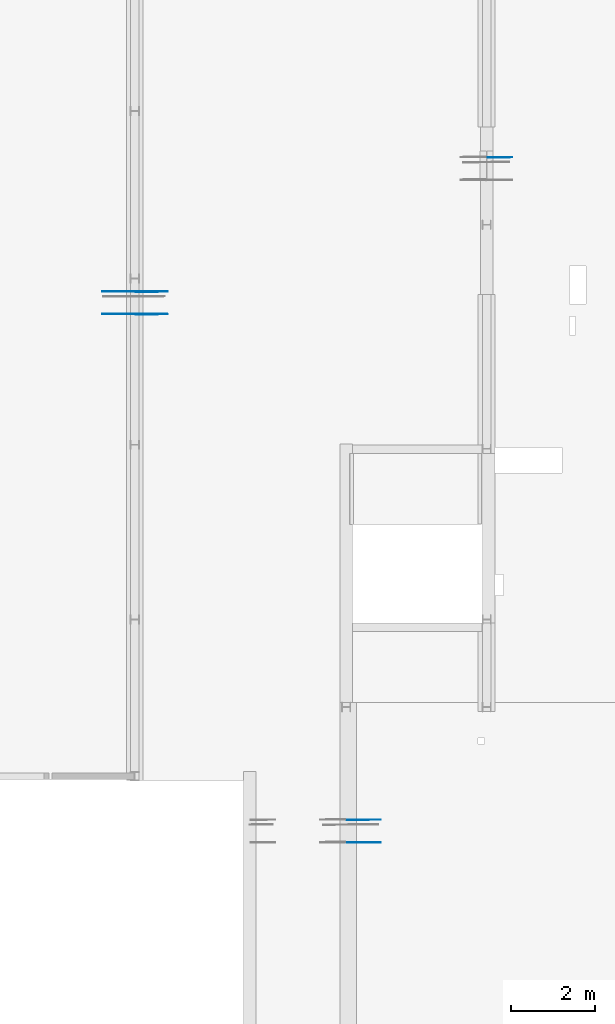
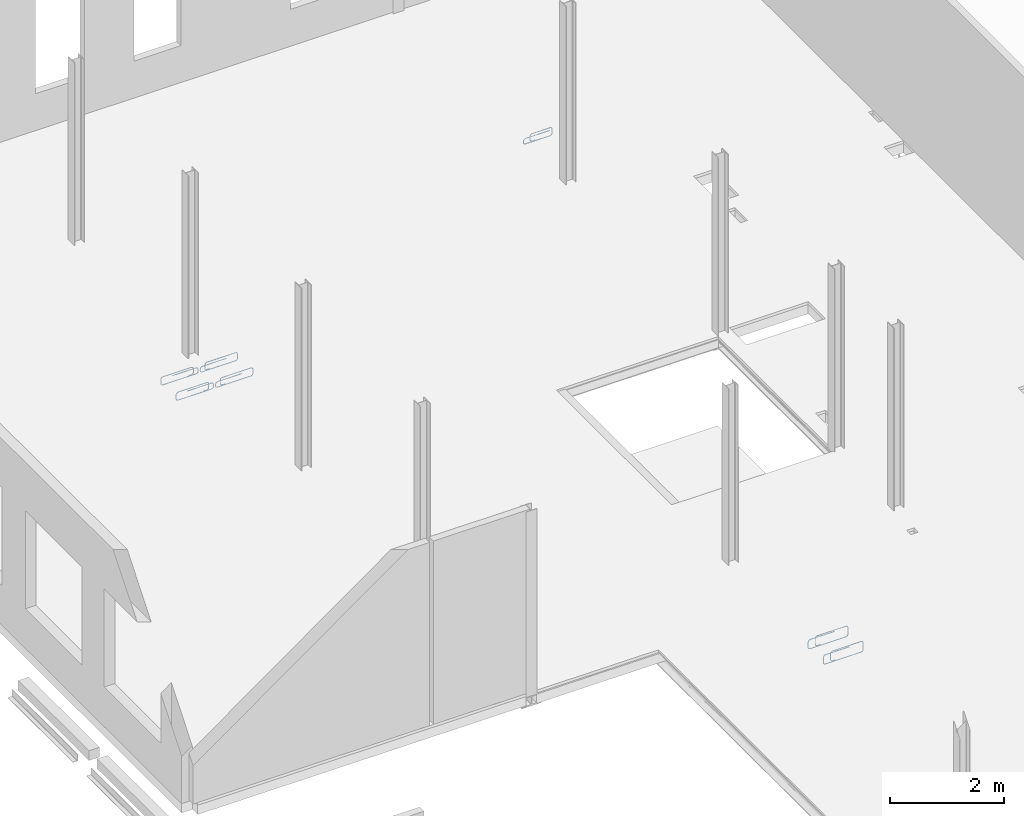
# One storey, part 15 of 16: 7 reinforcing bars.
"""IFC2X3 building model written with IfcOpenShell, lengths in millimetres."""

from ifc_helpers import new_model, entity, si_unit, converted_unit, derived_unit, direction, frame, origin, place, context, subcontext, project, spatial, element, save


model = new_model("IFC2X3")

# Units and contexts
model_context = context("Model", 3, precision=0.01, world=origin(), true_north=direction((6.12303176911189e-17, 1.0)))
body_context = subcontext(model_context, "Body", "Model", "MODEL_VIEW")
ifc_project = project(units=[si_unit("LENGTHUNIT", "METRE", prefix="MILLI"), si_unit("AREAUNIT", "SQUARE_METRE"), si_unit("VOLUMEUNIT", "CUBIC_METRE"), converted_unit("PLANEANGLEUNIT", "DEGREE", entity("IfcRatioMeasure", 0.0174532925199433), si_unit("PLANEANGLEUNIT", "RADIAN"), dimensions=[0, 0, 0, 0, 0, 0, 0]), si_unit("MASSUNIT", "GRAM", prefix="KILO"), derived_unit("MASSDENSITYUNIT", [(si_unit("MASSUNIT", "GRAM", prefix="KILO"), 1), (si_unit("LENGTHUNIT", "METRE"), -3)]), derived_unit("MOMENTOFINERTIAUNIT", [(si_unit("LENGTHUNIT", "METRE"), 4)]), si_unit("TIMEUNIT", "SECOND"), si_unit("FREQUENCYUNIT", "HERTZ"), si_unit("THERMODYNAMICTEMPERATUREUNIT", "DEGREE_CELSIUS"), derived_unit("THERMALTRANSMITTANCEUNIT", [(si_unit("MASSUNIT", "GRAM", prefix="KILO"), 1), (si_unit("THERMODYNAMICTEMPERATUREUNIT", "KELVIN"), -1), (si_unit("TIMEUNIT", "SECOND"), -3)]), derived_unit("VOLUMETRICFLOWRATEUNIT", [(si_unit("LENGTHUNIT", "METRE"), 3), (si_unit("TIMEUNIT", "SECOND"), -1)]), si_unit("ELECTRICCURRENTUNIT", "AMPERE"), si_unit("ELECTRICVOLTAGEUNIT", "VOLT"), si_unit("POWERUNIT", "WATT"), si_unit("FORCEUNIT", "NEWTON", prefix="KILO"), si_unit("ILLUMINANCEUNIT", "LUX"), si_unit("LUMINOUSFLUXUNIT", "LUMEN"), si_unit("LUMINOUSINTENSITYUNIT", "CANDELA"), derived_unit("USERDEFINED", [(si_unit("MASSUNIT", "GRAM", prefix="KILO"), -1), (si_unit("LENGTHUNIT", "METRE"), -2), (si_unit("TIMEUNIT", "SECOND"), 3), (si_unit("LUMINOUSFLUXUNIT", "LUMEN"), 1)]), derived_unit("LINEARVELOCITYUNIT", [(si_unit("LENGTHUNIT", "METRE"), 1), (si_unit("TIMEUNIT", "SECOND"), -1)]), si_unit("PRESSUREUNIT", "PASCAL"), derived_unit("USERDEFINED", [(si_unit("LENGTHUNIT", "METRE"), -2), (si_unit("MASSUNIT", "GRAM", prefix="KILO"), 1), (si_unit("TIMEUNIT", "SECOND"), -2)]), derived_unit("LINEARFORCEUNIT", [(si_unit("MASSUNIT", "GRAM", prefix="KILO"), 1), (si_unit("LENGTHUNIT", "METRE"), 1), (si_unit("TIMEUNIT", "SECOND"), -2), (si_unit("LENGTHUNIT", "METRE"), -1)]), derived_unit("PLANARFORCEUNIT", [(si_unit("MASSUNIT", "GRAM", prefix="KILO"), 1), (si_unit("LENGTHUNIT", "METRE"), 1), (si_unit("TIMEUNIT", "SECOND"), -2), (si_unit("LENGTHUNIT", "METRE"), -2)])], contexts=[model_context])

# Site, building, storey
site_placement = place(None, origin())
site = spatial("IfcSite", under=ifc_project, at=site_placement, Name="Default", CompositionType="ELEMENT")
building_placement = place(site_placement, origin())
building = spatial("IfcBuilding", under=site, at=building_placement, CompositionType="ELEMENT")
storey_placement = place(building_placement, frame((0.0, 0.0, 3500.0)))
storey = spatial("IfcBuildingStorey", under=building, at=storey_placement, Name="01 eerste verdieping", CompositionType="ELEMENT", Elevation=3500.00000000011)

# Reinforcing bars
reinforcing_bar_1_placement = place(storey_placement, origin())
ifc_direction_1 = entity("IfcDirection", [0.0, 1.0, 0.0])
ifc_direction_2 = entity("IfcDirection", [-1.0, 0.0, 0.0])
element("IfcReinforcingBar", 1, at=reinforcing_bar_1_placement, inside=storey, Name="Rebar Bar:SR_ø8 : Shape Rebar Shape 5: 1", ObjectType="Rebar Bar:SR_ø8", BarLength=2375.59682652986, BarRole="NOTDEFINED", CrossSectionArea=5.02654824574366e-05, NominalDiameter=8.0, context=body_context, shape_type="AdvancedSweptSolid", body=[
    entity("IfcSweptDiskSolid", entity("IfcCompositeCurve", [entity("IfcCompositeCurveSegment", "CONTINUOUS", True, entity("IfcPolyline", [entity("IfcCartesianPoint", [20782.5848635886, 27754.977353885, 209.138583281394]), entity("IfcCartesianPoint", [20730.5848635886, 27754.977353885, 209.138583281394])])), entity("IfcCompositeCurveSegment", "CONTINUOUS", True, entity("IfcTrimmedCurve", entity("IfcCircle", entity("IfcAxis2Placement3D", entity("IfcCartesianPoint", [20730.5848635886, 27754.977353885, 253.138583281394]), ifc_direction_1, ifc_direction_2), 44.0), [entity("IfcParameterValue", 270.0)], [entity("IfcParameterValue", 360.0)], True, "PARAMETER")), entity("IfcCompositeCurveSegment", "CONTINUOUS", True, entity("IfcPolyline", [entity("IfcCartesianPoint", [20686.5848635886, 27754.977353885, 253.138583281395]), entity("IfcCartesianPoint", [20686.5848635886, 27754.977353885, 322.533605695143])])), entity("IfcCompositeCurveSegment", "CONTINUOUS", True, entity("IfcTrimmedCurve", entity("IfcCircle", entity("IfcAxis2Placement3D", entity("IfcCartesianPoint", [20730.5848635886, 27754.977353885, 322.533605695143]), ifc_direction_1, entity("IfcDirection", [0.0, 0.0, 1.0])), 44.0), [entity("IfcParameterValue", 270.0)], [entity("IfcParameterValue", 360.0)], True, "PARAMETER")), entity("IfcCompositeCurveSegment", "CONTINUOUS", True, entity("IfcPolyline", [entity("IfcCartesianPoint", [20730.5848635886, 27754.977353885, 366.533605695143]), entity("IfcCartesianPoint", [21303.2357722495, 27754.977353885, 366.533605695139])])), entity("IfcCompositeCurveSegment", "CONTINUOUS", True, entity("IfcTrimmedCurve", entity("IfcCircle", entity("IfcAxis2Placement3D", entity("IfcCartesianPoint", [21303.2357722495, 27754.977353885, 322.533605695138]), ifc_direction_1, entity("IfcDirection", [1.0, 0.0, 0.0])), 44.0), [entity("IfcParameterValue", 270.0)], [entity("IfcParameterValue", 360.0)], True, "PARAMETER")), entity("IfcCompositeCurveSegment", "CONTINUOUS", True, entity("IfcPolyline", [entity("IfcCartesianPoint", [21347.2357722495, 27754.977353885, 322.533605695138]), entity("IfcCartesianPoint", [21347.2357722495, 27754.977353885, 238.0])])), entity("IfcCompositeCurveSegment", "CONTINUOUS", True, entity("IfcTrimmedCurve", entity("IfcCircle", entity("IfcAxis2Placement3D", entity("IfcCartesianPoint", [21303.2357722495, 27754.977353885, 238.0]), ifc_direction_1, entity("IfcDirection", [0.0, 0.0, -1.0])), 44.0), [entity("IfcParameterValue", 270.0)], [entity("IfcParameterValue", 360.0)], True, "PARAMETER")), entity("IfcCompositeCurveSegment", "CONTINUOUS", True, entity("IfcPolyline", [entity("IfcCartesianPoint", [21303.2357722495, 27754.977353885, 194.0]), entity("IfcCartesianPoint", [20633.5512070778, 27754.977353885, 194.0])])), entity("IfcCompositeCurveSegment", "CONTINUOUS", True, entity("IfcTrimmedCurve", entity("IfcCircle", entity("IfcAxis2Placement3D", entity("IfcCartesianPoint", [20633.5512070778, 27752.0982912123, 237.905705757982]), entity("IfcDirection", [0.0, 0.997856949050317, 0.065433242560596]), ifc_direction_2), 44.0), [entity("IfcParameterValue", 270.0)], [entity("IfcParameterValue", 360.0)], True, "PARAMETER")), entity("IfcCompositeCurveSegment", "CONTINUOUS", True, entity("IfcPolyline", [entity("IfcCartesianPoint", [20589.5512070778, 27752.0982912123, 237.905705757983]), entity("IfcCartesianPoint", [20589.5512070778, 27749.8564165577, 272.09429424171])])), entity("IfcCompositeCurveSegment", "CONTINUOUS", True, entity("IfcTrimmedCurve", entity("IfcCircle", entity("IfcAxis2Placement3D", entity("IfcCartesianPoint", [20633.5512070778, 27749.8564165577, 272.09429424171]), entity("IfcDirection", [0.0, 0.997856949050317, 0.065433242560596]), entity("IfcDirection", [0.0, -0.065433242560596, 0.997856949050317])), 44.0), [entity("IfcParameterValue", 270.0)], [entity("IfcParameterValue", 360.0)], True, "PARAMETER")), entity("IfcCompositeCurveSegment", "CONTINUOUS", True, entity("IfcPolyline", [entity("IfcCartesianPoint", [20633.5512070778, 27746.977353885, 316.0]), entity("IfcCartesianPoint", [21112.193701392, 27746.977353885, 316.0])]))], False), 4.0, None, 0.0, 547.0),
])
reinforcing_bar_2_placement = place(storey_placement, origin())
ifc_direction_3 = entity("IfcDirection", [0.0, 1.0, 0.0])
ifc_direction_4 = entity("IfcDirection", [-1.0, 0.0, 0.0])
element("IfcReinforcingBar", 2, at=reinforcing_bar_2_placement, inside=storey, Name="Rebar Bar:SR_ø8 : Shape Rebar Shape 5: 2", ObjectType="Rebar Bar:SR_ø8", BarLength=2375.59682652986, BarRole="NOTDEFINED", CrossSectionArea=5.02654824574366e-05, NominalDiameter=8.0, context=body_context, shape_type="AdvancedSweptSolid", body=[
    entity("IfcSweptDiskSolid", entity("IfcCompositeCurve", [entity("IfcCompositeCurveSegment", "CONTINUOUS", True, entity("IfcPolyline", [entity("IfcCartesianPoint", [20782.5848635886, 27216.2387660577, 209.138583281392]), entity("IfcCartesianPoint", [20730.5848635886, 27216.2387660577, 209.138583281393])])), entity("IfcCompositeCurveSegment", "CONTINUOUS", True, entity("IfcTrimmedCurve", entity("IfcCircle", entity("IfcAxis2Placement3D", entity("IfcCartesianPoint", [20730.5848635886, 27216.2387660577, 253.138583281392]), ifc_direction_3, ifc_direction_4), 44.0), [entity("IfcParameterValue", 270.0)], [entity("IfcParameterValue", 360.0)], True, "PARAMETER")), entity("IfcCompositeCurveSegment", "CONTINUOUS", True, entity("IfcPolyline", [entity("IfcCartesianPoint", [20686.5848635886, 27216.2387660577, 253.138583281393]), entity("IfcCartesianPoint", [20686.5848635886, 27216.2387660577, 322.533605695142])])), entity("IfcCompositeCurveSegment", "CONTINUOUS", True, entity("IfcTrimmedCurve", entity("IfcCircle", entity("IfcAxis2Placement3D", entity("IfcCartesianPoint", [20730.5848635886, 27216.2387660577, 322.533605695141]), ifc_direction_3, entity("IfcDirection", [0.0, 0.0, 1.0])), 44.0), [entity("IfcParameterValue", 270.0)], [entity("IfcParameterValue", 360.0)], True, "PARAMETER")), entity("IfcCompositeCurveSegment", "CONTINUOUS", True, entity("IfcPolyline", [entity("IfcCartesianPoint", [20730.5848635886, 27216.2387660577, 366.533605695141]), entity("IfcCartesianPoint", [21303.2357722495, 27216.2387660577, 366.533605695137])])), entity("IfcCompositeCurveSegment", "CONTINUOUS", True, entity("IfcTrimmedCurve", entity("IfcCircle", entity("IfcAxis2Placement3D", entity("IfcCartesianPoint", [21303.2357722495, 27216.2387660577, 322.533605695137]), ifc_direction_3, entity("IfcDirection", [1.0, 0.0, 0.0])), 44.0), [entity("IfcParameterValue", 270.0)], [entity("IfcParameterValue", 360.0)], True, "PARAMETER")), entity("IfcCompositeCurveSegment", "CONTINUOUS", True, entity("IfcPolyline", [entity("IfcCartesianPoint", [21347.2357722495, 27216.2387660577, 322.533605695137]), entity("IfcCartesianPoint", [21347.2357722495, 27216.2387660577, 238.0])])), entity("IfcCompositeCurveSegment", "CONTINUOUS", True, entity("IfcTrimmedCurve", entity("IfcCircle", entity("IfcAxis2Placement3D", entity("IfcCartesianPoint", [21303.2357722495, 27216.2387660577, 238.0]), ifc_direction_3, entity("IfcDirection", [0.0, 0.0, -1.0])), 44.0), [entity("IfcParameterValue", 270.0)], [entity("IfcParameterValue", 360.0)], True, "PARAMETER")), entity("IfcCompositeCurveSegment", "CONTINUOUS", True, entity("IfcPolyline", [entity("IfcCartesianPoint", [21303.2357722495, 27216.2387660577, 194.0]), entity("IfcCartesianPoint", [20633.5512070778, 27216.2387660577, 194.0])])), entity("IfcCompositeCurveSegment", "CONTINUOUS", True, entity("IfcTrimmedCurve", entity("IfcCircle", entity("IfcAxis2Placement3D", entity("IfcCartesianPoint", [20633.5512070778, 27213.359703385, 237.905705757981]), entity("IfcDirection", [0.0, 0.997856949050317, 0.065433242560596]), ifc_direction_4), 44.0), [entity("IfcParameterValue", 270.0)], [entity("IfcParameterValue", 360.0)], True, "PARAMETER")), entity("IfcCompositeCurveSegment", "CONTINUOUS", True, entity("IfcPolyline", [entity("IfcCartesianPoint", [20589.5512070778, 27213.359703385, 237.905705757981]), entity("IfcCartesianPoint", [20589.5512070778, 27211.1178287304, 272.094294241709])])), entity("IfcCompositeCurveSegment", "CONTINUOUS", True, entity("IfcTrimmedCurve", entity("IfcCircle", entity("IfcAxis2Placement3D", entity("IfcCartesianPoint", [20633.5512070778, 27211.1178287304, 272.094294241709]), entity("IfcDirection", [0.0, 0.997856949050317, 0.065433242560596]), entity("IfcDirection", [0.0, -0.065433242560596, 0.997856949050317])), 44.0), [entity("IfcParameterValue", 270.0)], [entity("IfcParameterValue", 360.0)], True, "PARAMETER")), entity("IfcCompositeCurveSegment", "CONTINUOUS", True, entity("IfcPolyline", [entity("IfcCartesianPoint", [20633.5512070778, 27208.2387660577, 316.0]), entity("IfcCartesianPoint", [21112.193701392, 27208.2387660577, 316.0])]))], False), 4.0, None, 0.0, 547.0),
])
reinforcing_bar_3_placement = place(storey_placement, origin())
ifc_direction_5 = entity("IfcDirection", [0.0, -1.0, 0.0])
ifc_direction_6 = entity("IfcDirection", [1.0, 0.0, 0.0])
element("IfcReinforcingBar", 3, at=reinforcing_bar_3_placement, inside=storey, Name="Rebar Bar:SR_ø8 : Shape Rebar Shape 5: 1", ObjectType="Rebar Bar:SR_ø8", BarLength=2375.59682652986, BarRole="NOTDEFINED", CrossSectionArea=5.02654824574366e-05, NominalDiameter=8.0, context=body_context, shape_type="AdvancedSweptSolid", body=[
    entity("IfcSweptDiskSolid", entity("IfcCompositeCurve", [entity("IfcCompositeCurveSegment", "CONTINUOUS", True, entity("IfcPolyline", [entity("IfcCartesianPoint", [20356.2850894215, 27754.977353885, 209.138583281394]), entity("IfcCartesianPoint", [20408.2850894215, 27754.977353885, 209.138583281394])])), entity("IfcCompositeCurveSegment", "CONTINUOUS", True, entity("IfcTrimmedCurve", entity("IfcCircle", entity("IfcAxis2Placement3D", entity("IfcCartesianPoint", [20408.2850894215, 27754.977353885, 253.138583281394]), ifc_direction_5, ifc_direction_6), 44.0), [entity("IfcParameterValue", 270.0)], [entity("IfcParameterValue", 360.0)], True, "PARAMETER")), entity("IfcCompositeCurveSegment", "CONTINUOUS", True, entity("IfcPolyline", [entity("IfcCartesianPoint", [20452.2850894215, 27754.977353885, 253.138583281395]), entity("IfcCartesianPoint", [20452.2850894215, 27754.977353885, 322.533605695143])])), entity("IfcCompositeCurveSegment", "CONTINUOUS", True, entity("IfcTrimmedCurve", entity("IfcCircle", entity("IfcAxis2Placement3D", entity("IfcCartesianPoint", [20408.2850894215, 27754.977353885, 322.533605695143]), ifc_direction_5, entity("IfcDirection", [0.0, 0.0, 1.0])), 44.0), [entity("IfcParameterValue", 270.0)], [entity("IfcParameterValue", 360.0)], True, "PARAMETER")), entity("IfcCompositeCurveSegment", "CONTINUOUS", True, entity("IfcPolyline", [entity("IfcCartesianPoint", [20408.2850894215, 27754.977353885, 366.533605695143]), entity("IfcCartesianPoint", [19835.6341807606, 27754.977353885, 366.533605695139])])), entity("IfcCompositeCurveSegment", "CONTINUOUS", True, entity("IfcTrimmedCurve", entity("IfcCircle", entity("IfcAxis2Placement3D", entity("IfcCartesianPoint", [19835.6341807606, 27754.977353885, 322.533605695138]), ifc_direction_5, entity("IfcDirection", [-1.0, 0.0, 0.0])), 44.0), [entity("IfcParameterValue", 270.0)], [entity("IfcParameterValue", 360.0)], True, "PARAMETER")), entity("IfcCompositeCurveSegment", "CONTINUOUS", True, entity("IfcPolyline", [entity("IfcCartesianPoint", [19791.6341807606, 27754.977353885, 322.533605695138]), entity("IfcCartesianPoint", [19791.6341807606, 27754.977353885, 238.0])])), entity("IfcCompositeCurveSegment", "CONTINUOUS", True, entity("IfcTrimmedCurve", entity("IfcCircle", entity("IfcAxis2Placement3D", entity("IfcCartesianPoint", [19835.6341807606, 27754.977353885, 238.0]), ifc_direction_5, entity("IfcDirection", [0.0, 0.0, -1.0])), 44.0), [entity("IfcParameterValue", 270.0)], [entity("IfcParameterValue", 360.0)], True, "PARAMETER")), entity("IfcCompositeCurveSegment", "CONTINUOUS", True, entity("IfcPolyline", [entity("IfcCartesianPoint", [19835.6341807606, 27754.977353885, 194.0]), entity("IfcCartesianPoint", [20505.3187459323, 27754.977353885, 194.0])])), entity("IfcCompositeCurveSegment", "CONTINUOUS", True, entity("IfcTrimmedCurve", entity("IfcCircle", entity("IfcAxis2Placement3D", entity("IfcCartesianPoint", [20505.3187459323, 27757.8564165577, 237.905705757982]), entity("IfcDirection", [0.0, -0.997856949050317, 0.0654332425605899]), ifc_direction_6), 44.0), [entity("IfcParameterValue", 270.0)], [entity("IfcParameterValue", 360.0)], True, "PARAMETER")), entity("IfcCompositeCurveSegment", "CONTINUOUS", True, entity("IfcPolyline", [entity("IfcCartesianPoint", [20549.3187459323, 27757.8564165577, 237.905705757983]), entity("IfcCartesianPoint", [20549.3187459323, 27760.0982912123, 272.09429424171])])), entity("IfcCompositeCurveSegment", "CONTINUOUS", True, entity("IfcTrimmedCurve", entity("IfcCircle", entity("IfcAxis2Placement3D", entity("IfcCartesianPoint", [20505.3187459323, 27760.0982912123, 272.09429424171]), entity("IfcDirection", [0.0, -0.997856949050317, 0.0654332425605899]), entity("IfcDirection", [0.0, 0.0654332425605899, 0.997856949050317])), 44.0), [entity("IfcParameterValue", 270.0)], [entity("IfcParameterValue", 360.0)], True, "PARAMETER")), entity("IfcCompositeCurveSegment", "CONTINUOUS", True, entity("IfcPolyline", [entity("IfcCartesianPoint", [20505.3187459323, 27762.977353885, 316.0]), entity("IfcCartesianPoint", [20026.6762516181, 27762.977353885, 316.0])]))], False), 4.0, None, 0.0, 547.0),
])
reinforcing_bar_4_placement = place(storey_placement, origin())
ifc_direction_7 = entity("IfcDirection", [0.0, -1.0, 0.0])
ifc_direction_8 = entity("IfcDirection", [1.0, 0.0, 0.0])
element("IfcReinforcingBar", 4, at=reinforcing_bar_4_placement, inside=storey, Name="Rebar Bar:SR_ø8 : Shape Rebar Shape 5: 2", ObjectType="Rebar Bar:SR_ø8", BarLength=2375.59682652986, BarRole="NOTDEFINED", CrossSectionArea=5.02654824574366e-05, NominalDiameter=8.0, context=body_context, shape_type="AdvancedSweptSolid", body=[
    entity("IfcSweptDiskSolid", entity("IfcCompositeCurve", [entity("IfcCompositeCurveSegment", "CONTINUOUS", True, entity("IfcPolyline", [entity("IfcCartesianPoint", [20356.2850894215, 27216.2387660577, 209.138583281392]), entity("IfcCartesianPoint", [20408.2850894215, 27216.2387660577, 209.138583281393])])), entity("IfcCompositeCurveSegment", "CONTINUOUS", True, entity("IfcTrimmedCurve", entity("IfcCircle", entity("IfcAxis2Placement3D", entity("IfcCartesianPoint", [20408.2850894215, 27216.2387660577, 253.138583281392]), ifc_direction_7, ifc_direction_8), 44.0), [entity("IfcParameterValue", 270.0)], [entity("IfcParameterValue", 360.0)], True, "PARAMETER")), entity("IfcCompositeCurveSegment", "CONTINUOUS", True, entity("IfcPolyline", [entity("IfcCartesianPoint", [20452.2850894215, 27216.2387660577, 253.138583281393]), entity("IfcCartesianPoint", [20452.2850894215, 27216.2387660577, 322.533605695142])])), entity("IfcCompositeCurveSegment", "CONTINUOUS", True, entity("IfcTrimmedCurve", entity("IfcCircle", entity("IfcAxis2Placement3D", entity("IfcCartesianPoint", [20408.2850894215, 27216.2387660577, 322.533605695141]), ifc_direction_7, entity("IfcDirection", [0.0, 0.0, 1.0])), 44.0), [entity("IfcParameterValue", 270.0)], [entity("IfcParameterValue", 360.0)], True, "PARAMETER")), entity("IfcCompositeCurveSegment", "CONTINUOUS", True, entity("IfcPolyline", [entity("IfcCartesianPoint", [20408.2850894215, 27216.2387660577, 366.533605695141]), entity("IfcCartesianPoint", [19835.6341807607, 27216.2387660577, 366.533605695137])])), entity("IfcCompositeCurveSegment", "CONTINUOUS", True, entity("IfcTrimmedCurve", entity("IfcCircle", entity("IfcAxis2Placement3D", entity("IfcCartesianPoint", [19835.6341807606, 27216.2387660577, 322.533605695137]), ifc_direction_7, entity("IfcDirection", [-1.0, 0.0, 0.0])), 44.0), [entity("IfcParameterValue", 270.0)], [entity("IfcParameterValue", 360.0)], True, "PARAMETER")), entity("IfcCompositeCurveSegment", "CONTINUOUS", True, entity("IfcPolyline", [entity("IfcCartesianPoint", [19791.6341807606, 27216.2387660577, 322.533605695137]), entity("IfcCartesianPoint", [19791.6341807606, 27216.2387660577, 238.0])])), entity("IfcCompositeCurveSegment", "CONTINUOUS", True, entity("IfcTrimmedCurve", entity("IfcCircle", entity("IfcAxis2Placement3D", entity("IfcCartesianPoint", [19835.6341807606, 27216.2387660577, 238.0]), ifc_direction_7, entity("IfcDirection", [0.0, 0.0, -1.0])), 44.0), [entity("IfcParameterValue", 270.0)], [entity("IfcParameterValue", 360.0)], True, "PARAMETER")), entity("IfcCompositeCurveSegment", "CONTINUOUS", True, entity("IfcPolyline", [entity("IfcCartesianPoint", [19835.6341807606, 27216.2387660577, 194.0]), entity("IfcCartesianPoint", [20505.3187459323, 27216.2387660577, 194.0])])), entity("IfcCompositeCurveSegment", "CONTINUOUS", True, entity("IfcTrimmedCurve", entity("IfcCircle", entity("IfcAxis2Placement3D", entity("IfcCartesianPoint", [20505.3187459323, 27219.1178287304, 237.905705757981]), entity("IfcDirection", [0.0, -0.997856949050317, 0.0654332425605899]), ifc_direction_8), 44.0), [entity("IfcParameterValue", 270.0)], [entity("IfcParameterValue", 360.0)], True, "PARAMETER")), entity("IfcCompositeCurveSegment", "CONTINUOUS", True, entity("IfcPolyline", [entity("IfcCartesianPoint", [20549.3187459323, 27219.1178287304, 237.905705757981]), entity("IfcCartesianPoint", [20549.3187459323, 27221.359703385, 272.094294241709])])), entity("IfcCompositeCurveSegment", "CONTINUOUS", True, entity("IfcTrimmedCurve", entity("IfcCircle", entity("IfcAxis2Placement3D", entity("IfcCartesianPoint", [20505.3187459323, 27221.359703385, 272.094294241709]), entity("IfcDirection", [0.0, -0.997856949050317, 0.0654332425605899]), entity("IfcDirection", [0.0, 0.0654332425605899, 0.997856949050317])), 44.0), [entity("IfcParameterValue", 270.0)], [entity("IfcParameterValue", 360.0)], True, "PARAMETER")), entity("IfcCompositeCurveSegment", "CONTINUOUS", True, entity("IfcPolyline", [entity("IfcCartesianPoint", [20505.3187459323, 27224.2387660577, 316.0]), entity("IfcCartesianPoint", [20026.6762516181, 27224.2387660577, 316.0])]))], False), 4.0, None, 0.0, 547.0),
])
reinforcing_bar_5_placement = place(storey_placement, origin())
ifc_direction_9 = entity("IfcDirection", [0.0, 1.0, 0.0])
ifc_direction_10 = entity("IfcDirection", [-1.0, 0.0, 0.0])
element("IfcReinforcingBar", 5, at=reinforcing_bar_5_placement, inside=storey, Name="Rebar Bar:SR_ø8 : Shape Rebar Shape 5: 1", ObjectType="Rebar Bar:SR_ø8", BarLength=2615.23564138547, BarRole="NOTDEFINED", CrossSectionArea=5.02654824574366e-05, NominalDiameter=8.0, context=body_context, shape_type="AdvancedSweptSolid", body=[
    entity("IfcSweptDiskSolid", entity("IfcCompositeCurve", [entity("IfcCompositeCurveSegment", "CONTINUOUS", True, entity("IfcPolyline", [entity("IfcCartesianPoint", [25878.1899190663, 15141.6014686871, 156.073413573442]), entity("IfcCartesianPoint", [25826.1899190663, 15141.6014686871, 156.073413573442])])), entity("IfcCompositeCurveSegment", "CONTINUOUS", True, entity("IfcTrimmedCurve", entity("IfcCircle", entity("IfcAxis2Placement3D", entity("IfcCartesianPoint", [25826.1899190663, 15141.6014686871, 200.073413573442]), ifc_direction_9, ifc_direction_10), 44.0), [entity("IfcParameterValue", 270.0)], [entity("IfcParameterValue", 360.0)], True, "PARAMETER")), entity("IfcCompositeCurveSegment", "CONTINUOUS", True, entity("IfcPolyline", [entity("IfcCartesianPoint", [25782.1899190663, 15141.6014686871, 200.073413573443]), entity("IfcCartesianPoint", [25782.1899190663, 15141.6014686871, 322.533605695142])])), entity("IfcCompositeCurveSegment", "CONTINUOUS", True, entity("IfcTrimmedCurve", entity("IfcCircle", entity("IfcAxis2Placement3D", entity("IfcCartesianPoint", [25826.1899190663, 15141.6014686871, 322.533605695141]), ifc_direction_9, entity("IfcDirection", [0.0, 0.0, 1.0])), 44.0), [entity("IfcParameterValue", 270.0)], [entity("IfcParameterValue", 360.0)], True, "PARAMETER")), entity("IfcCompositeCurveSegment", "CONTINUOUS", True, entity("IfcPolyline", [entity("IfcCartesianPoint", [25826.1899190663, 15141.6014686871, 366.533605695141]), entity("IfcCartesianPoint", [26399.2690566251, 15141.6014686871, 366.533605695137])])), entity("IfcCompositeCurveSegment", "CONTINUOUS", True, entity("IfcTrimmedCurve", entity("IfcCircle", entity("IfcAxis2Placement3D", entity("IfcCartesianPoint", [26399.2690566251, 15141.6014686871, 322.533605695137]), ifc_direction_9, entity("IfcDirection", [1.0, 0.0, 0.0])), 44.0), [entity("IfcParameterValue", 270.0)], [entity("IfcParameterValue", 360.0)], True, "PARAMETER")), entity("IfcCompositeCurveSegment", "CONTINUOUS", True, entity("IfcPolyline", [entity("IfcCartesianPoint", [26443.2690566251, 15141.6014686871, 322.533605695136]), entity("IfcCartesianPoint", [26443.2690566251, 15141.6014686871, 183.530991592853])])), entity("IfcCompositeCurveSegment", "CONTINUOUS", True, entity("IfcTrimmedCurve", entity("IfcCircle", entity("IfcAxis2Placement3D", entity("IfcCartesianPoint", [26399.2690566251, 15141.6014686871, 183.530991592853]), ifc_direction_9, entity("IfcDirection", [0.0, 0.0, -1.0])), 44.0), [entity("IfcParameterValue", 270.0)], [entity("IfcParameterValue", 360.0)], True, "PARAMETER")), entity("IfcCompositeCurveSegment", "CONTINUOUS", True, entity("IfcPolyline", [entity("IfcCartesianPoint", [26399.2690566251, 15141.6014686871, 139.530991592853]), entity("IfcCartesianPoint", [25679.5512070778, 15141.6014686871, 139.530991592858])])), entity("IfcCompositeCurveSegment", "CONTINUOUS", True, entity("IfcTrimmedCurve", entity("IfcCircle", entity("IfcAxis2Placement3D", entity("IfcCartesianPoint", [25679.5512070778, 15139.8742868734, 183.497079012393]), entity("IfcDirection", [0.0, 0.999229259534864, 0.0392541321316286]), ifc_direction_10), 44.0), [entity("IfcParameterValue", 270.0)], [entity("IfcParameterValue", 360.0)], True, "PARAMETER")), entity("IfcCompositeCurveSegment", "CONTINUOUS", True, entity("IfcPolyline", [entity("IfcCartesianPoint", [25635.5512070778, 15139.8742868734, 183.497079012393]), entity("IfcCartesianPoint", [25635.5512070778, 15135.3286505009, 299.208027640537])])), entity("IfcCompositeCurveSegment", "CONTINUOUS", True, entity("IfcTrimmedCurve", entity("IfcCircle", entity("IfcAxis2Placement3D", entity("IfcCartesianPoint", [25679.5512070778, 15135.3286505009, 299.208027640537]), entity("IfcDirection", [0.0, 0.999229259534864, 0.0392541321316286]), entity("IfcDirection", [0.0, -0.0392541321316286, 0.999229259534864])), 44.0), [entity("IfcParameterValue", 270.0)], [entity("IfcParameterValue", 360.0)], True, "PARAMETER")), entity("IfcCompositeCurveSegment", "CONTINUOUS", True, entity("IfcPolyline", [entity("IfcCartesianPoint", [25679.5512070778, 15133.6014686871, 343.174115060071]), entity("IfcCartesianPoint", [26158.193701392, 15133.6014686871, 343.174115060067])]))], False), 4.0, None, 0.0, 547.0),
])
reinforcing_bar_6_placement = place(storey_placement, origin())
ifc_direction_11 = entity("IfcDirection", [0.0, 1.0, 0.0])
ifc_direction_12 = entity("IfcDirection", [-1.0, 0.0, 0.0])
element("IfcReinforcingBar", 6, at=reinforcing_bar_6_placement, inside=storey, Name="Rebar Bar:SR_ø8 : Shape Rebar Shape 5: 2", ObjectType="Rebar Bar:SR_ø8", BarLength=2615.23564138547, BarRole="NOTDEFINED", CrossSectionArea=5.02654824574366e-05, NominalDiameter=8.0, context=body_context, shape_type="AdvancedSweptSolid", body=[
    entity("IfcSweptDiskSolid", entity("IfcCompositeCurve", [entity("IfcCompositeCurveSegment", "CONTINUOUS", True, entity("IfcPolyline", [entity("IfcCartesianPoint", [25878.1899190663, 14602.8628808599, 156.07341357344]), entity("IfcCartesianPoint", [25826.1899190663, 14602.8628808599, 156.073413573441])])), entity("IfcCompositeCurveSegment", "CONTINUOUS", True, entity("IfcTrimmedCurve", entity("IfcCircle", entity("IfcAxis2Placement3D", entity("IfcCartesianPoint", [25826.1899190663, 14602.8628808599, 200.07341357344]), ifc_direction_11, ifc_direction_12), 44.0), [entity("IfcParameterValue", 270.0)], [entity("IfcParameterValue", 360.0)], True, "PARAMETER")), entity("IfcCompositeCurveSegment", "CONTINUOUS", True, entity("IfcPolyline", [entity("IfcCartesianPoint", [25782.1899190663, 14602.8628808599, 200.073413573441]), entity("IfcCartesianPoint", [25782.1899190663, 14602.8628808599, 322.53360569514])])), entity("IfcCompositeCurveSegment", "CONTINUOUS", True, entity("IfcTrimmedCurve", entity("IfcCircle", entity("IfcAxis2Placement3D", entity("IfcCartesianPoint", [25826.1899190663, 14602.8628808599, 322.53360569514]), ifc_direction_11, entity("IfcDirection", [0.0, 0.0, 1.0])), 44.0), [entity("IfcParameterValue", 270.0)], [entity("IfcParameterValue", 360.0)], True, "PARAMETER")), entity("IfcCompositeCurveSegment", "CONTINUOUS", True, entity("IfcPolyline", [entity("IfcCartesianPoint", [25826.1899190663, 14602.8628808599, 366.533605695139]), entity("IfcCartesianPoint", [26399.2690566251, 14602.8628808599, 366.533605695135])])), entity("IfcCompositeCurveSegment", "CONTINUOUS", True, entity("IfcTrimmedCurve", entity("IfcCircle", entity("IfcAxis2Placement3D", entity("IfcCartesianPoint", [26399.2690566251, 14602.8628808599, 322.533605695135]), ifc_direction_11, entity("IfcDirection", [1.0, 0.0, 0.0])), 44.0), [entity("IfcParameterValue", 270.0)], [entity("IfcParameterValue", 360.0)], True, "PARAMETER")), entity("IfcCompositeCurveSegment", "CONTINUOUS", True, entity("IfcPolyline", [entity("IfcCartesianPoint", [26443.2690566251, 14602.8628808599, 322.533605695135]), entity("IfcCartesianPoint", [26443.2690566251, 14602.8628808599, 183.530991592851])])), entity("IfcCompositeCurveSegment", "CONTINUOUS", True, entity("IfcTrimmedCurve", entity("IfcCircle", entity("IfcAxis2Placement3D", entity("IfcCartesianPoint", [26399.2690566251, 14602.8628808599, 183.530991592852]), ifc_direction_11, entity("IfcDirection", [0.0, 0.0, -1.0])), 44.0), [entity("IfcParameterValue", 270.0)], [entity("IfcParameterValue", 360.0)], True, "PARAMETER")), entity("IfcCompositeCurveSegment", "CONTINUOUS", True, entity("IfcPolyline", [entity("IfcCartesianPoint", [26399.2690566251, 14602.8628808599, 139.530991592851]), entity("IfcCartesianPoint", [25679.5512070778, 14602.8628808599, 139.530991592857])])), entity("IfcCompositeCurveSegment", "CONTINUOUS", True, entity("IfcTrimmedCurve", entity("IfcCircle", entity("IfcAxis2Placement3D", entity("IfcCartesianPoint", [25679.5512070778, 14601.1356990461, 183.497079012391]), entity("IfcDirection", [0.0, 0.999229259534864, 0.0392541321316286]), ifc_direction_12), 44.0), [entity("IfcParameterValue", 270.0)], [entity("IfcParameterValue", 360.0)], True, "PARAMETER")), entity("IfcCompositeCurveSegment", "CONTINUOUS", True, entity("IfcPolyline", [entity("IfcCartesianPoint", [25635.5512070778, 14601.1356990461, 183.497079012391]), entity("IfcCartesianPoint", [25635.5512070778, 14596.5900626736, 299.208027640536])])), entity("IfcCompositeCurveSegment", "CONTINUOUS", True, entity("IfcTrimmedCurve", entity("IfcCircle", entity("IfcAxis2Placement3D", entity("IfcCartesianPoint", [25679.5512070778, 14596.5900626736, 299.208027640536]), entity("IfcDirection", [0.0, 0.999229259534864, 0.0392541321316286]), entity("IfcDirection", [0.0, -0.0392541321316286, 0.999229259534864])), 44.0), [entity("IfcParameterValue", 270.0)], [entity("IfcParameterValue", 360.0)], True, "PARAMETER")), entity("IfcCompositeCurveSegment", "CONTINUOUS", True, entity("IfcPolyline", [entity("IfcCartesianPoint", [25679.5512070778, 14594.8628808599, 343.17411506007]), entity("IfcCartesianPoint", [26158.193701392, 14594.8628808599, 343.174115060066])]))], False), 4.0, None, 0.0, 547.0),
])
reinforcing_bar_7_placement = place(storey_placement, origin())
ifc_direction_13 = entity("IfcDirection", [0.0, 1.0, 0.0])
ifc_direction_14 = entity("IfcDirection", [-1.0, 0.0, 0.0])
element("IfcReinforcingBar", 7, at=reinforcing_bar_7_placement, inside=storey, Name="Rebar Bar:SR_ø8 : Shape Rebar Shape 5: 1", ObjectType="Rebar Bar:SR_ø8", BarLength=1985.60583193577, BarRole="NOTDEFINED", CrossSectionArea=5.02654824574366e-05, NominalDiameter=8.0, context=body_context, shape_type="AdvancedSweptSolid", body=[
    entity("IfcSweptDiskSolid", entity("IfcCompositeCurve", [entity("IfcCompositeCurveSegment", "CONTINUOUS", True, entity("IfcPolyline", [entity("IfcCartesianPoint", [29228.5432654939, 30960.6285675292, 209.138583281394]), entity("IfcCartesianPoint", [29176.5432654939, 30960.6285675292, 209.138583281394])])), entity("IfcCompositeCurveSegment", "CONTINUOUS", True, entity("IfcTrimmedCurve", entity("IfcCircle", entity("IfcAxis2Placement3D", entity("IfcCartesianPoint", [29176.5432654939, 30960.6285675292, 253.138583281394]), ifc_direction_13, ifc_direction_14), 44.0), [entity("IfcParameterValue", 270.0)], [entity("IfcParameterValue", 360.0)], True, "PARAMETER")), entity("IfcCompositeCurveSegment", "CONTINUOUS", True, entity("IfcPolyline", [entity("IfcCartesianPoint", [29132.5432654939, 30960.6285675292, 253.138583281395]), entity("IfcCartesianPoint", [29132.5432654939, 30960.6285675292, 322.533605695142])])), entity("IfcCompositeCurveSegment", "CONTINUOUS", True, entity("IfcTrimmedCurve", entity("IfcCircle", entity("IfcAxis2Placement3D", entity("IfcCartesianPoint", [29176.5432654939, 30960.6285675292, 322.533605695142]), ifc_direction_13, entity("IfcDirection", [0.0, 0.0, 1.0])), 44.0), [entity("IfcParameterValue", 270.0)], [entity("IfcParameterValue", 360.0)], True, "PARAMETER")), entity("IfcCompositeCurveSegment", "CONTINUOUS", True, entity("IfcPolyline", [entity("IfcCartesianPoint", [29176.5432654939, 30960.6285675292, 366.533605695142]), entity("IfcCartesianPoint", [29534.5944759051, 30960.6285675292, 366.533605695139])])), entity("IfcCompositeCurveSegment", "CONTINUOUS", True, entity("IfcTrimmedCurve", entity("IfcCircle", entity("IfcAxis2Placement3D", entity("IfcCartesianPoint", [29534.5944759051, 30960.6285675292, 322.533605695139]), ifc_direction_13, entity("IfcDirection", [1.0, 0.0, 0.0])), 44.0), [entity("IfcParameterValue", 270.0)], [entity("IfcParameterValue", 360.0)], True, "PARAMETER")), entity("IfcCompositeCurveSegment", "CONTINUOUS", True, entity("IfcPolyline", [entity("IfcCartesianPoint", [29578.5944759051, 30960.6285675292, 322.533605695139]), entity("IfcCartesianPoint", [29578.5944759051, 30960.6285675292, 238.0])])), entity("IfcCompositeCurveSegment", "CONTINUOUS", True, entity("IfcTrimmedCurve", entity("IfcCircle", entity("IfcAxis2Placement3D", entity("IfcCartesianPoint", [29534.5944759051, 30960.6285675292, 238.0]), ifc_direction_13, entity("IfcDirection", [0.0, 0.0, -1.0])), 44.0), [entity("IfcParameterValue", 270.0)], [entity("IfcParameterValue", 360.0)], True, "PARAMETER")), entity("IfcCompositeCurveSegment", "CONTINUOUS", True, entity("IfcPolyline", [entity("IfcCartesianPoint", [29534.5944759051, 30960.6285675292, 194.0]), entity("IfcCartesianPoint", [29040.3012070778, 30960.6285675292, 194.0])])), entity("IfcCompositeCurveSegment", "CONTINUOUS", True, entity("IfcTrimmedCurve", entity("IfcCircle", entity("IfcAxis2Placement3D", entity("IfcCartesianPoint", [29040.3012070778, 30957.7495048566, 237.90570575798]), entity("IfcDirection", [0.0, 0.997856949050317, 0.0654332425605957]), ifc_direction_14), 44.0), [entity("IfcParameterValue", 270.0)], [entity("IfcParameterValue", 360.0)], True, "PARAMETER")), entity("IfcCompositeCurveSegment", "CONTINUOUS", True, entity("IfcPolyline", [entity("IfcCartesianPoint", [28996.3012070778, 30957.7495048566, 237.905705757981]), entity("IfcCartesianPoint", [28996.3012070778, 30955.5076302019, 272.094294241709])])), entity("IfcCompositeCurveSegment", "CONTINUOUS", True, entity("IfcTrimmedCurve", entity("IfcCircle", entity("IfcAxis2Placement3D", entity("IfcCartesianPoint", [29040.3012070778, 30955.5076302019, 272.094294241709]), entity("IfcDirection", [0.0, 0.997856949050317, 0.0654332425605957]), entity("IfcDirection", [0.0, -0.0654332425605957, 0.997856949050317])), 44.0), [entity("IfcParameterValue", 270.0)], [entity("IfcParameterValue", 360.0)], True, "PARAMETER")), entity("IfcCompositeCurveSegment", "CONTINUOUS", True, entity("IfcPolyline", [entity("IfcCartesianPoint", [29040.3012070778, 30952.6285675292, 316.0]), entity("IfcCartesianPoint", [29518.943701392, 30952.6285675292, 316.0])]))], False), 4.0, None, 0.0, 547.0),
])

save(model, "model.ifc")
